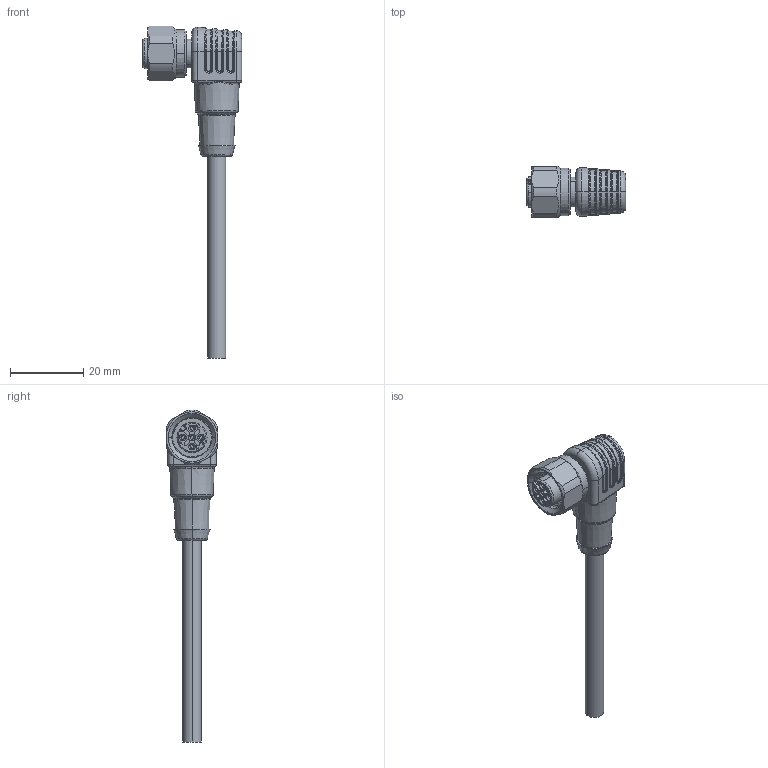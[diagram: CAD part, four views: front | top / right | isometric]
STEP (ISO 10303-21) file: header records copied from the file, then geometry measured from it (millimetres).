
FILE_DESCRIPTION (( 'STEP AP203' ), '1' );
FILE_NAME ('64E041-XXX 祥凄詩 LED.STEP', '2024-12-10T01:41:37', ( 'L' ), ( '' ), 'SwSTEP 2.0', 'SolidWorks 2019', '' );
FILE_SCHEMA (( 'CONFIG_CONTROL_DESIGN' ));
Length unit declared in the file: millimetre
Products named in the file (1): 64E041-XXX  祥凄詩 LED
Bounding box: 27.1 x 14 x 90.44 mm (x, y, z)
Volume: 6212.9 mm3; surface area: 4451.7 mm2
Topology: 1 solids, 1 shells, 650 faces, 1723 edges, 1100 vertices
Faces by surface type: plane 228, cylinder 198, bspline 102, cone 65, torus 57
Entity records: 32584 total; most frequent: CARTESIAN_POINT 18199, ORIENTED_EDGE 3444, DIRECTION 2315, EDGE_CURVE 1722, VERTEX_POINT 1100, AXIS2_PLACEMENT_3D 878, B_SPLINE_CURVE_WITH_KNOTS 771, EDGE_LOOP 676
